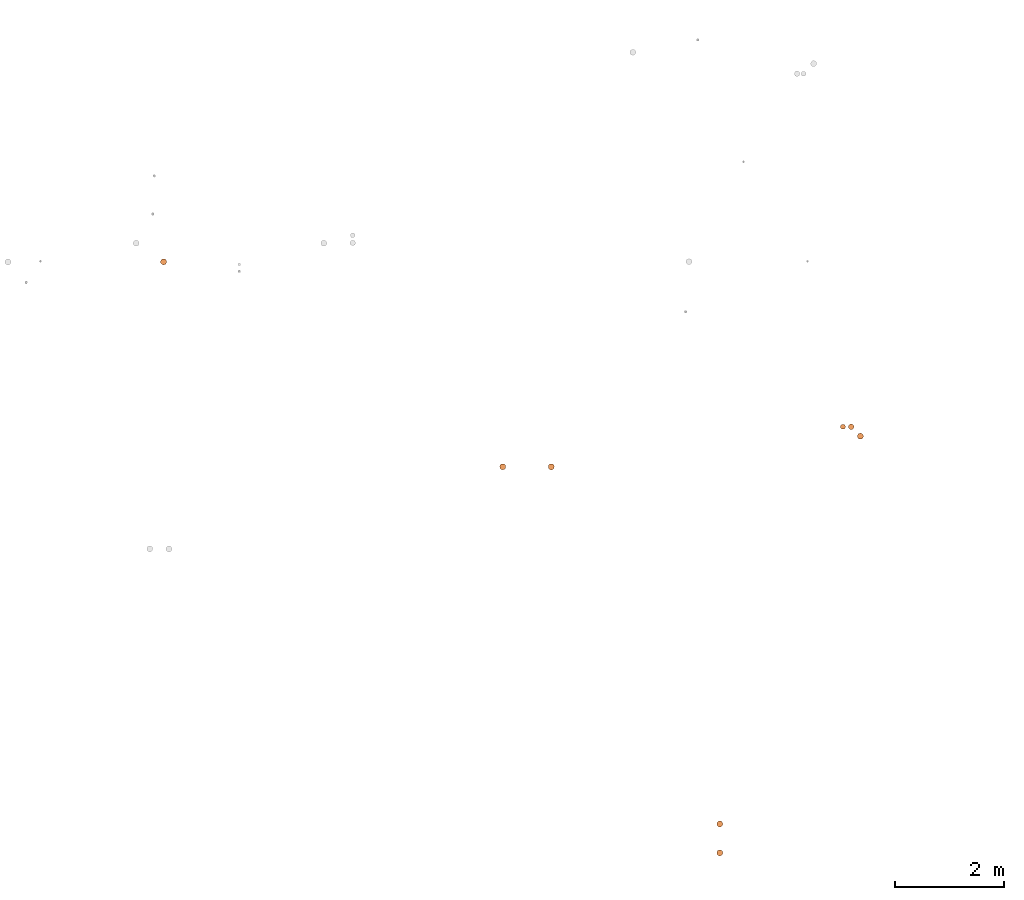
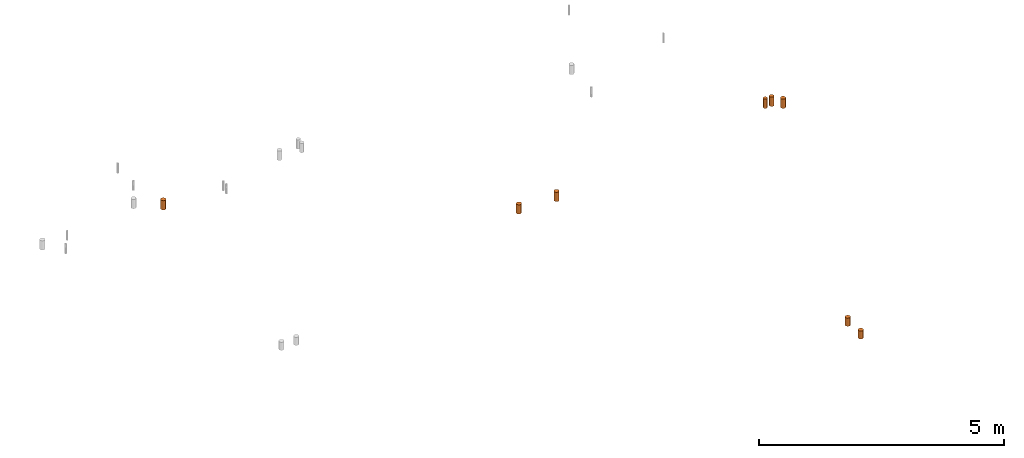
# One storey, part 13 of 16: 8 proxies.
"""IFC2X3 building model written with IfcOpenShell, lengths in centimetres."""

from ifc_helpers import new_model, entity, si_unit, converted_unit, derived_unit, direction, frame, origin, origin_2d_with_axis, place, context, subcontext, project, spatial, circle, extrude, source, transform, mapped, material, type_object, type_shapes, element, save


model = new_model("IFC2X3")

# Units and contexts
model_context = context("Model", 3, precision=0.001, world=origin(), true_north=direction((6.12303176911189e-17, 1.0)))
body_context = subcontext(model_context, "Body", "Model", "MODEL_VIEW")
ifc_project = project(units=[si_unit("LENGTHUNIT", "METRE", prefix="CENTI"), si_unit("AREAUNIT", "SQUARE_METRE"), si_unit("VOLUMEUNIT", "CUBIC_METRE"), converted_unit("PLANEANGLEUNIT", "DEGREE", entity("IfcRatioMeasure", 0.0174532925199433), si_unit("PLANEANGLEUNIT", "RADIAN"), dimensions=[0, 0, 0, 0, 0, 0, 0]), si_unit("MASSUNIT", "GRAM", prefix="KILO"), derived_unit("MASSDENSITYUNIT", [(si_unit("MASSUNIT", "GRAM", prefix="KILO"), 1), (si_unit("LENGTHUNIT", "METRE"), -3)]), si_unit("TIMEUNIT", "SECOND"), si_unit("FREQUENCYUNIT", "HERTZ"), si_unit("THERMODYNAMICTEMPERATUREUNIT", "DEGREE_CELSIUS"), derived_unit("THERMALTRANSMITTANCEUNIT", [(si_unit("MASSUNIT", "GRAM", prefix="KILO"), 1), (si_unit("THERMODYNAMICTEMPERATUREUNIT", "KELVIN"), -1), (si_unit("TIMEUNIT", "SECOND"), -3)]), derived_unit("VOLUMETRICFLOWRATEUNIT", [(si_unit("LENGTHUNIT", "METRE"), 3), (si_unit("TIMEUNIT", "SECOND"), -1)]), si_unit("ELECTRICCURRENTUNIT", "AMPERE"), si_unit("ELECTRICVOLTAGEUNIT", "VOLT"), si_unit("POWERUNIT", "WATT"), si_unit("FORCEUNIT", "NEWTON"), si_unit("ILLUMINANCEUNIT", "LUX"), si_unit("LUMINOUSFLUXUNIT", "LUMEN"), si_unit("LUMINOUSINTENSITYUNIT", "CANDELA"), derived_unit("USERDEFINED", [(si_unit("MASSUNIT", "GRAM", prefix="KILO"), -1), (si_unit("LENGTHUNIT", "METRE"), -2), (si_unit("TIMEUNIT", "SECOND"), 3), (si_unit("LUMINOUSFLUXUNIT", "LUMEN"), 1)]), derived_unit("LINEARVELOCITYUNIT", [(si_unit("LENGTHUNIT", "METRE"), 1), (si_unit("TIMEUNIT", "SECOND"), -1)]), si_unit("PRESSUREUNIT", "PASCAL"), derived_unit("USERDEFINED", [(si_unit("LENGTHUNIT", "METRE"), -2), (si_unit("MASSUNIT", "GRAM", prefix="KILO"), 1), (si_unit("TIMEUNIT", "SECOND"), -2)])], contexts=[model_context])

# Site, building, storey
site_placement = place(None, origin())
site = spatial("IfcSite", under=ifc_project, at=site_placement, Name="Default", CompositionType="ELEMENT")
building_placement = place(site_placement, origin())
building = spatial("IfcBuilding", under=site, at=building_placement, Name="CAGE 03", CompositionType="ELEMENT")
storey_placement = place(building_placement, frame((0.0, 0.0, 65.0)))
storey = spatial("IfcBuildingStorey", under=building, at=storey_placement, Name="Ac RDC", CompositionType="ELEMENT", Elevation=64.9999999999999)

# Proxies
ifc_material = material(Name="BBGO_Résa")
building_element_proxy_type_1 = type_object("IfcBuildingElementProxyType", Name="Ø110", PredefinedType="NOTDEFINED", material=ifc_material)
shared_shape_1 = source(origin(), body_context, "Body", "SweptSolid", [
    extrude(circle(Radius=5.5, at=origin_2d_with_axis()), frame((10675.2789665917, 3438.90862123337, 295.0)), (0.0, 0.0, 1.0), 20.0),
])
type_shapes(building_element_proxy_type_1, [shared_shape_1])
proxy_1_placement = place(storey_placement, frame((0.0, 0.0, -65.0)))
element("IfcBuildingElementProxy", 1, at=proxy_1_placement, inside=storey, type_object=building_element_proxy_type_1, material=ifc_material, Name="BBGO-Résa circ dalle:Ø110", ObjectType="Ø110", context=body_context, shape_type="MappedRepresentation", body=[
    mapped(shared_shape_1, transform((0.0, 0.0, 0.0), scale=1.0)),
])
building_element_proxy_type_2 = type_object("IfcBuildingElementProxyType", Name="Ø110", PredefinedType="NOTDEFINED", material=ifc_material)
shared_shape_2 = source(origin(), body_context, "Body", "SweptSolid", [
    extrude(circle(Radius=5.5, at=origin_2d_with_axis()), frame((10675.2789665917, 3386.02755894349, 295.0)), (0.0, 0.0, 1.0), 20.0),
])
type_shapes(building_element_proxy_type_2, [shared_shape_2])
proxy_2_placement = place(storey_placement, frame((0.0, 0.0, -65.0)))
element("IfcBuildingElementProxy", 2, at=proxy_2_placement, inside=storey, type_object=building_element_proxy_type_2, material=ifc_material, Name="BBGO-Résa circ dalle:Ø110", ObjectType="Ø110", context=body_context, shape_type="MappedRepresentation", body=[
    mapped(shared_shape_2, transform((0.0, 0.0, 0.0), scale=1.0)),
])
building_element_proxy_type_3 = type_object("IfcBuildingElementProxyType", Name="Ø110", PredefinedType="NOTDEFINED", material=ifc_material)
shared_shape_3 = source(origin(), body_context, "Body", "SweptSolid", [
    extrude(circle(Radius=5.5, at=origin_2d_with_axis()), frame((9658.5877841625, 4466.44137410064, 317.0)), (0.0, 0.0, 1.0), 22.9999999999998),
])
type_shapes(building_element_proxy_type_3, [shared_shape_3])
proxy_3_placement = place(storey_placement, frame((0.0, 0.0, -65.0)))
element("IfcBuildingElementProxy", 3, at=proxy_3_placement, inside=storey, type_object=building_element_proxy_type_3, material=ifc_material, Name="BBGO-Résa circ dalle:Ø110", ObjectType="Ø110", context=body_context, shape_type="MappedRepresentation", body=[
    mapped(shared_shape_3, transform((0.0, 0.0, 0.0), scale=1.0)),
])
building_element_proxy_type_4 = type_object("IfcBuildingElementProxyType", Name="Ø110", PredefinedType="NOTDEFINED", material=ifc_material)
shared_shape_4 = source(origin(), body_context, "Body", "SweptSolid", [
    extrude(circle(Radius=5.5, at=origin_2d_with_axis()), frame((10278.5250398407, 4091.78406510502, 317.0)), (0.0, 0.0, 1.0), 22.9999999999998),
])
type_shapes(building_element_proxy_type_4, [shared_shape_4])
proxy_4_placement = place(storey_placement, frame((0.0, 0.0, -65.0)))
element("IfcBuildingElementProxy", 4, at=proxy_4_placement, inside=storey, type_object=building_element_proxy_type_4, material=ifc_material, Name="BBGO-Résa circ dalle:Ø110", ObjectType="Ø110", context=body_context, shape_type="MappedRepresentation", body=[
    mapped(shared_shape_4, transform((0.0, 0.0, 0.0), scale=1.0)),
])
building_element_proxy_type_5 = type_object("IfcBuildingElementProxyType", Name="Ø110", PredefinedType="NOTDEFINED", material=ifc_material)
shared_shape_5 = source(origin(), body_context, "Body", "SweptSolid", [
    extrude(circle(Radius=5.5, at=origin_2d_with_axis()), frame((10367.2546185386, 4091.7355184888, 317.0)), (0.0, 0.0, 1.0), 22.9999999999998),
])
type_shapes(building_element_proxy_type_5, [shared_shape_5])
proxy_5_placement = place(storey_placement, frame((0.0, 0.0, -65.0)))
element("IfcBuildingElementProxy", 5, at=proxy_5_placement, inside=storey, type_object=building_element_proxy_type_5, material=ifc_material, Name="BBGO-Résa circ dalle:Ø110", ObjectType="Ø110", context=body_context, shape_type="MappedRepresentation", body=[
    mapped(shared_shape_5, transform((0.0, 0.0, 0.0), scale=1.0)),
])
building_element_proxy_type_6 = type_object("IfcBuildingElementProxyType", Name="Ø110", PredefinedType="NOTDEFINED", material=ifc_material)
shared_shape_6 = source(origin(), body_context, "Body", "SweptSolid", [
    extrude(circle(Radius=5.5, at=origin_2d_with_axis()), frame((10932.3027270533, 4147.6179388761, 317.0)), (0.0, 0.0, 1.0), 22.9999999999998),
])
type_shapes(building_element_proxy_type_6, [shared_shape_6])
proxy_6_placement = place(storey_placement, frame((0.0, 0.0, -65.0)))
element("IfcBuildingElementProxy", 6, at=proxy_6_placement, inside=storey, type_object=building_element_proxy_type_6, material=ifc_material, Name="BBGO-Résa circ dalle:Ø110", ObjectType="Ø110", context=body_context, shape_type="MappedRepresentation", body=[
    mapped(shared_shape_6, transform((0.0, 0.0, 0.0), scale=1.0)),
])
building_element_proxy_type_7 = type_object("IfcBuildingElementProxyType", Name="Ø100", PredefinedType="NOTDEFINED", material=ifc_material)
shared_shape_7 = source(origin(), body_context, "Body", "SweptSolid", [
    extrude(circle(Radius=5.0, at=origin_2d_with_axis()), frame((10915.4442397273, 4164.87525516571, 317.0)), (0.0, 0.0, 1.0), 22.9999999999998),
])
type_shapes(building_element_proxy_type_7, [shared_shape_7])
proxy_7_placement = place(storey_placement, frame((0.0, 0.0, -65.0)))
element("IfcBuildingElementProxy", 7, at=proxy_7_placement, inside=storey, type_object=building_element_proxy_type_7, material=ifc_material, Name="BBGO-Résa circ dalle:Ø100", ObjectType="Ø100", context=body_context, shape_type="MappedRepresentation", body=[
    mapped(shared_shape_7, transform((0.0, 0.0, 0.0), scale=1.0)),
])
building_element_proxy_type_8 = type_object("IfcBuildingElementProxyType", Name="Ø90", PredefinedType="NOTDEFINED", material=ifc_material)
shared_shape_8 = source(origin(), body_context, "Body", "SweptSolid", [
    extrude(circle(Radius=4.5, at=origin_2d_with_axis()), frame((10900.3160166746, 4164.87525516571, 317.0)), (0.0, 0.0, 1.0), 22.9999999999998),
])
type_shapes(building_element_proxy_type_8, [shared_shape_8])
proxy_8_placement = place(storey_placement, frame((0.0, 0.0, -65.0)))
element("IfcBuildingElementProxy", 8, at=proxy_8_placement, inside=storey, type_object=building_element_proxy_type_8, material=ifc_material, Name="BBGO-Résa circ dalle:Ø90", ObjectType="Ø90", context=body_context, shape_type="MappedRepresentation", body=[
    mapped(shared_shape_8, transform((0.0, 0.0, 0.0), scale=1.0)),
])

save(model, "model.ifc")
